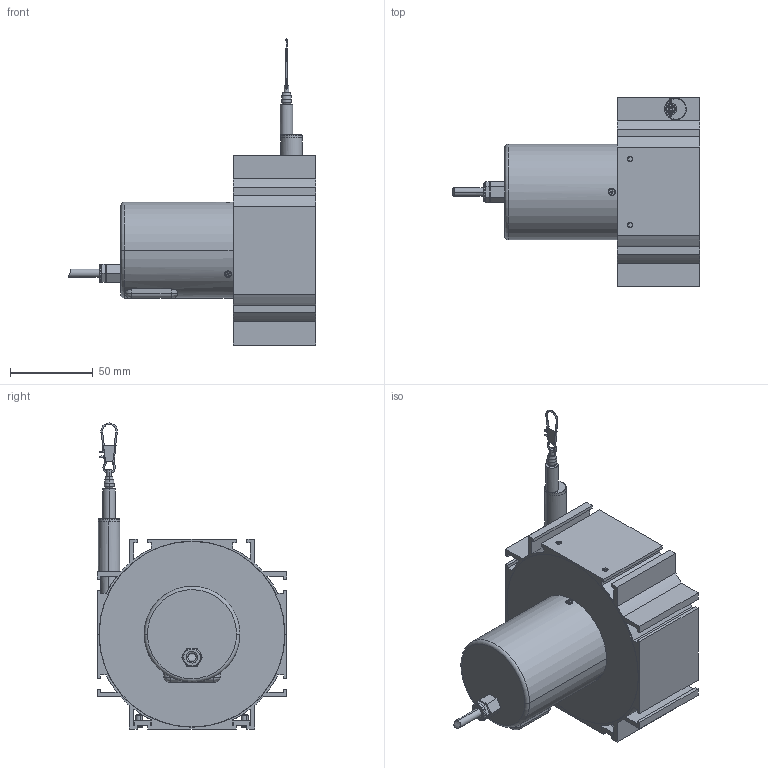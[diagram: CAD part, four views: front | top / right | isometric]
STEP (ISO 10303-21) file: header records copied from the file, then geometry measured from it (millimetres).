
FILE_DESCRIPTION((''),'2;1');
FILE_NAME('','2007-03-21T',(''),(''),'PRO/ENGINEER BY PARAMETRIC TECHNOLOGY CORPORATION, 2003250','PRO/ENGINEER BY PARAMETRIC TECHNOLOGY CORPORATION, 2003250','');
FILE_SCHEMA(('CONFIG_CONTROL_DESIGN'));
Length unit declared in the file: millimetre
Bounding box: 149.74 x 115 x 185.5 mm (x, y, z)
Volume: 265054.7 mm3; surface area: 128990.7 mm2
Topology: 1 solids, 8 shells, 574 faces, 1462 edges, 925 vertices
Faces by surface type: plane 263, cylinder 186, cone 72, torus 36, bspline 14, sphere 2, extrusion 1
Entity records: 18484 total; most frequent: CARTESIAN_POINT 4500, DIRECTION 2941, ORIENTED_EDGE 2876, EDGE_CURVE 1438, AXIS2_PLACEMENT_3D 1066, VERTEX_POINT 925, VECTOR 809, LINE 808
